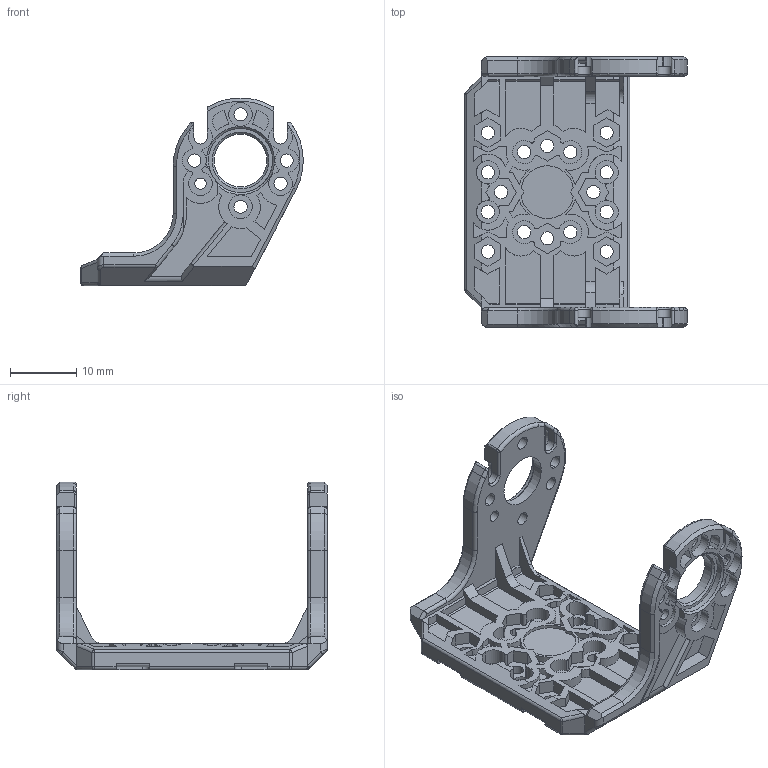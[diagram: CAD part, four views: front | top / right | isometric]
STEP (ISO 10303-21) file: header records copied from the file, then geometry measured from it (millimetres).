
FILE_DESCRIPTION((''),'2;1');
FILE_NAME('AK_U_BRACKET','2011-03-07T',('Administrator'),(''),'PRO/ENGINEER BY PARAMETRIC TECHNOLOGY CORPORATION, 2010330','PRO/ENGINEER BY PARAMETRIC TECHNOLOGY CORPORATION, 2010330','');
FILE_SCHEMA(('CONFIG_CONTROL_DESIGN'));
Length unit declared in the file: millimetre
Products named in the file (1): AK_U_BRACKET
Bounding box: 33.7 x 41 x 28.47 mm (x, y, z)
Volume: 4091.2 mm3; surface area: 5619 mm2
Topology: 1 solids, 1 shells, 632 faces, 1747 edges, 1132 vertices
Faces by surface type: cylinder 289, plane 288, torus 17, cone 16, bspline 12, sphere 10
Entity records: 21187 total; most frequent: CARTESIAN_POINT 4644, ORIENTED_EDGE 3484, DIRECTION 3468, EDGE_CURVE 1742, AXIS2_PLACEMENT_3D 1209, VERTEX_POINT 1130, VECTOR 1050, LINE 1050
